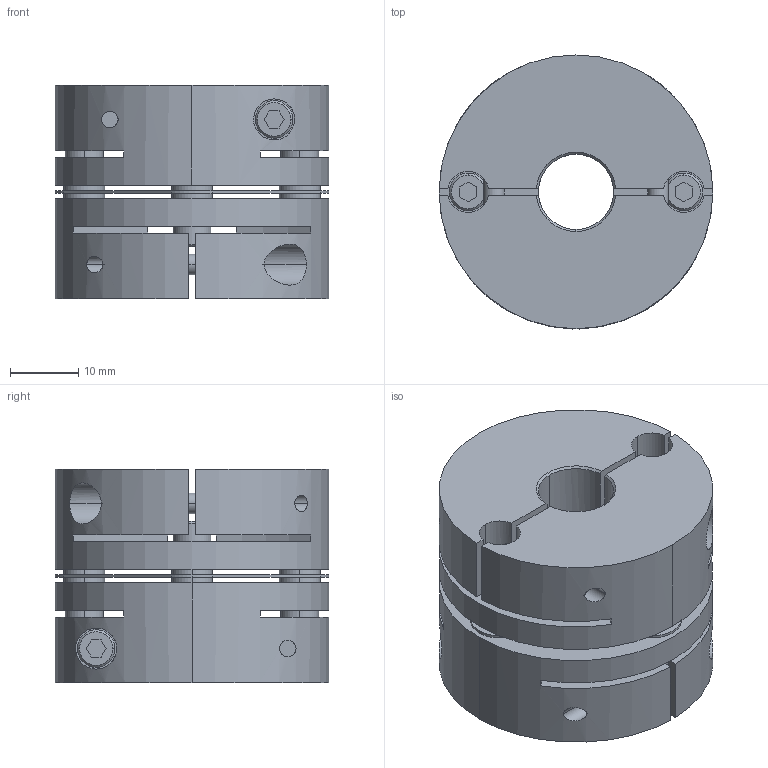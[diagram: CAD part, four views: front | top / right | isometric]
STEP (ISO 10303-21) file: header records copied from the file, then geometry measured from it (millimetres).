
FILE_DESCRIPTION((''),'2;1');
FILE_NAME('LAS-40C-11×16.stp','2011-08-11T08:57:05',(''),(''),'AutoCAD STEP 2000i','AutoCAD 2000i',', , ');
FILE_SCHEMA(('CONFIG_CONTROL_DESIGN'));
Length unit declared in the file: millimetre
Products named in the file (6): LAS-40C-10×15; 忣兜1; LA-4002-D15; LA-4002-D10-1; LA-4002-D10; LAS40-ITA
Assembly tree (5 placements, depth 2):
  LAS-40C-10×15
    忣兜1
    LA-4002-D15
    LA-4002-D10-1
    LA-4002-D10
    LAS40-ITA
Bounding box: 40 x 40 x 31.2 mm (x, y, z)
Volume: 29782.1 mm3; surface area: 15287.1 mm2
Topology: 1 solids, 1 shells, 236 faces, 624 edges, 408 vertices
Faces by surface type: plane 112, cylinder 96, cone 28
Entity records: 8177 total; most frequent: CARTESIAN_POINT 1970, DIRECTION 1304, ORIENTED_EDGE 1248, EDGE_CURVE 624, AXIS2_PLACEMENT_3D 478, VERTEX_POINT 408, VECTOR 348, LINE 348
